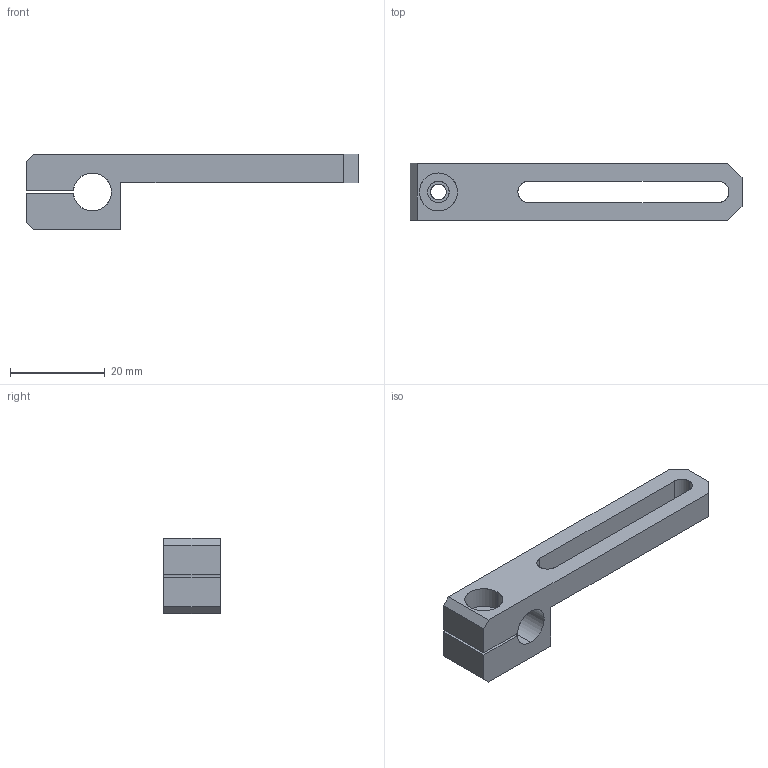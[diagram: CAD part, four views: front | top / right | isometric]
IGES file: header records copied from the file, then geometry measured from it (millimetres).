
Start section: SolidWorks IGES file using analytic representation for surfaces
Global section: file name: D:\YaoR-WORKFILE\カタログ掲載新商品\database\SLIDE-BKT T\230056_8 Slide40-F8BKT T.IGS; native system: SolidWorks 2006 by SolidWorks Corporation; preprocessor: SolidWorks 2006 by SolidWorks Corporation; author: CAD56; date: 080425.092821; units: millimetre
Bounding box: 70 x 12 x 16 mm (x, y, z)
Surface area: 4016.5 mm2 (no closed solid volume)
Topology: 0 solids, 0 shells, 30 faces, 458 edges, 458 vertices
Faces by surface type: bspline 18, revolution 12
